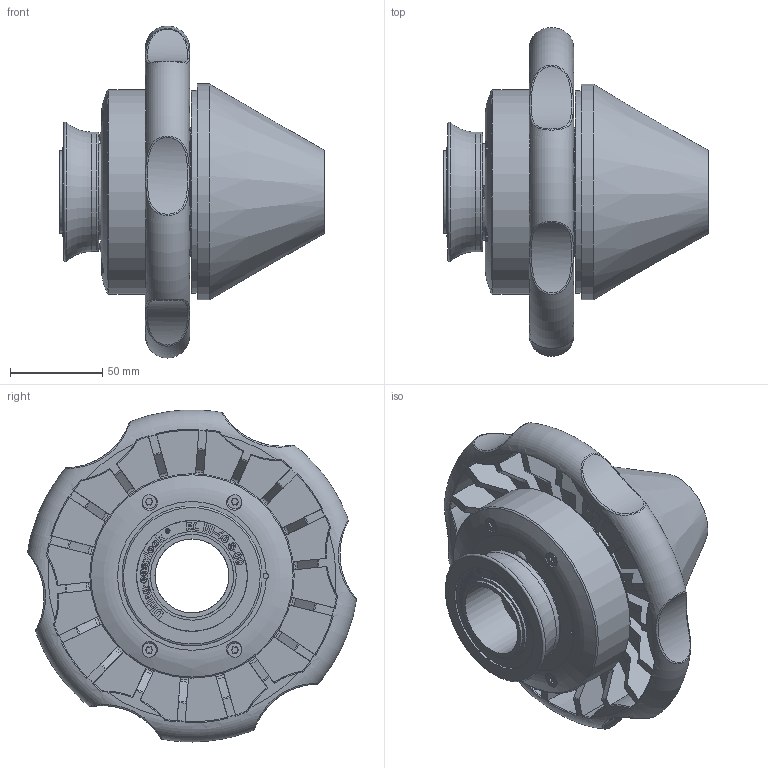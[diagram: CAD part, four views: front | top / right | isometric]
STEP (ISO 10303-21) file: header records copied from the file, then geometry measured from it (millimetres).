
FILE_DESCRIPTION (( 'STEP AP214' ), '1' );
FILE_NAME ('EL-III-40-K60.STEP', '2023-03-16T12:54:18', ( '' ), ( '' ), 'SwSTEP 2.0', 'SolidWorks 2022', '' );
FILE_SCHEMA (( 'AUTOMOTIVE_DESIGN' ));
Length unit declared in the file: millimetre
Products named in the file (1): EL-III-40-K60
Bounding box: 143.42 x 178.14 x 179.9 mm (x, y, z)
Volume: 783246.7 mm3; surface area: 300848 mm2
Topology: 41 solids, 71 shells, 1357 faces, 3460 edges, 2280 vertices
Faces by surface type: plane 581, bspline 393, cylinder 223, torus 92, cone 66, sphere 2
Full cylindrical faces by diameter (mm): 2.1 x2, 2.5 x2, 3 x5, 3.3 x4, 4 x4, 4.2 x4, 5.5 x1, 6 x3, 6.8 x1, 7.64 x4, 8 x1, 10.1 x2, 40.05 x1, 40.1 x2, 40.12 x1, 43.4 x1, 45 x5, 45.1 x1, 45.5 x1, 45.6 x1, 47 x1, 52.5 x1, 52.7 x1, 60 x1, 60.2 x1, 65 x3, 66 x2, 70 x4, 70.5 x4, 76.3 x4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
Entity records: 98988 total; most frequent: CARTESIAN_POINT 54547, ORIENTED_EDGE 6390, DIRECTION 4795, EDGE_CURVE 3195, VERTEX_POINT 2198, EDGE_LOOP 1647, AXIS2_PLACEMENT_3D 1611, LINE 1573
